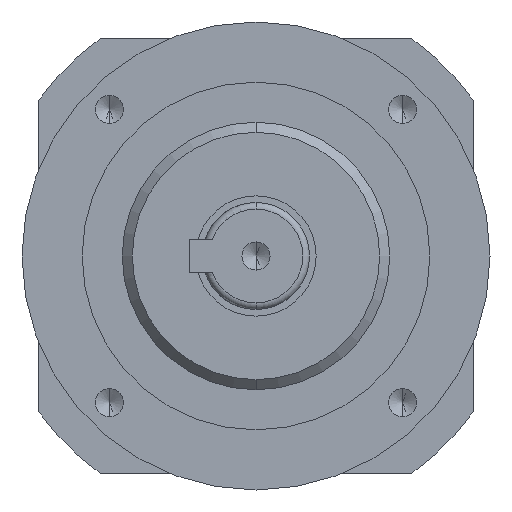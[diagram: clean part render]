
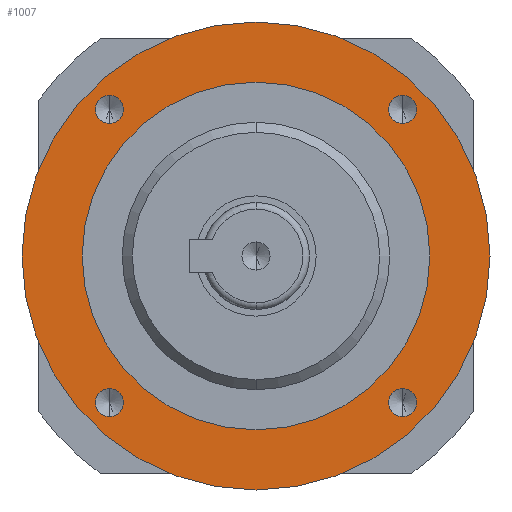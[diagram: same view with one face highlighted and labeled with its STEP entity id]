
A CAD part, left-side view. The second image highlights one B-rep face of the part: STEP entity #1007.
In plain terms, the highlighted planar face has unit normal (-1, 0, 0).
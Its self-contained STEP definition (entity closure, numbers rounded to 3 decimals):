
#20 = CIRCLE ( 'NONE', #2623, 35. ) ;
#24 = ORIENTED_EDGE ( 'NONE', *, *, #965, .F. ) ;
#28 = AXIS2_PLACEMENT_3D ( 'NONE', #1465, #796, #357 ) ;
#67 = DIRECTION ( 'NONE',  ( 0., 0., 1. ) ) ;
#84 = EDGE_LOOP ( 'NONE', ( #975, #856 ) ) ;
#86 = CIRCLE ( 'NONE', #2035, 2.1 ) ;
#93 = EDGE_CURVE ( 'NONE', #1799, #336, #2617, .T. ) ;
#112 = EDGE_CURVE ( 'NONE', #573, #1245, #20, .T. ) ;
#124 = DIRECTION ( 'NONE',  ( 0., 0., 1. ) ) ;
#161 = DIRECTION ( 'NONE',  ( -1., 0., 0. ) ) ;
#263 = EDGE_LOOP ( 'NONE', ( #613, #271 ) ) ;
#265 = DIRECTION ( 'NONE',  ( 1., 0., 0. ) ) ;
#271 = ORIENTED_EDGE ( 'NONE', *, *, #1080, .F. ) ;
#281 = EDGE_CURVE ( 'NONE', #2171, #2276, #1968, .T. ) ;
#312 = CARTESIAN_POINT ( 'NONE',  ( 36., 0., 0. ) ) ;
#336 = VERTEX_POINT ( 'NONE', #1221 ) ;
#337 = EDGE_LOOP ( 'NONE', ( #1322, #2040 ) ) ;
#357 = DIRECTION ( 'NONE',  ( 0., 0., 1. ) ) ;
#382 = CARTESIAN_POINT ( 'NONE',  ( 36., -21.92, 19.82 ) ) ;
#387 = DIRECTION ( 'NONE',  ( 0., 0., 1. ) ) ;
#398 = CIRCLE ( 'NONE', #1229, 2.1 ) ;
#401 = CARTESIAN_POINT ( 'NONE',  ( 36., 21.92, -21.92 ) ) ;
#449 = VERTEX_POINT ( 'NONE', #659 ) ;
#464 = CARTESIAN_POINT ( 'NONE',  ( 36., 0., -26. ) ) ;
#507 = DIRECTION ( 'NONE',  ( 0., 0., 1. ) ) ;
#522 = AXIS2_PLACEMENT_3D ( 'NONE', #2291, #2113, #1232 ) ;
#561 = EDGE_CURVE ( 'NONE', #449, #959, #86, .T. ) ;
#573 = VERTEX_POINT ( 'NONE', #2455 ) ;
#598 = CIRCLE ( 'NONE', #522, 35. ) ;
#609 = DIRECTION ( 'NONE',  ( 0., 0., 1. ) ) ;
#613 = ORIENTED_EDGE ( 'NONE', *, *, #670, .F. ) ;
#622 = ORIENTED_EDGE ( 'NONE', *, *, #561, .F. ) ;
#653 = ORIENTED_EDGE ( 'NONE', *, *, #2118, .T. ) ;
#659 = CARTESIAN_POINT ( 'NONE',  ( 36., 21.92, -19.82 ) ) ;
#670 = EDGE_CURVE ( 'NONE', #1088, #1830, #1749, .T. ) ;
#712 = AXIS2_PLACEMENT_3D ( 'NONE', #1353, #732, #67 ) ;
#732 = DIRECTION ( 'NONE',  ( -1., 0., 0. ) ) ;
#776 = EDGE_CURVE ( 'NONE', #2276, #2171, #2678, .T. ) ;
#796 = DIRECTION ( 'NONE',  ( -1., 0., 0. ) ) ;
#798 = AXIS2_PLACEMENT_3D ( 'NONE', #1328, #1546, #2417 ) ;
#838 = DIRECTION ( 'NONE',  ( 0., 0., 1. ) ) ;
#856 = ORIENTED_EDGE ( 'NONE', *, *, #2114, .F. ) ;
#927 = DIRECTION ( 'NONE',  ( -1., 0., 0. ) ) ;
#929 = FACE_OUTER_BOUND ( 'NONE', #2515, .T. ) ;
#946 = ORIENTED_EDGE ( 'NONE', *, *, #93, .F. ) ;
#959 = VERTEX_POINT ( 'NONE', #2663 ) ;
#965 = EDGE_CURVE ( 'NONE', #336, #1799, #2200, .T. ) ;
#975 = ORIENTED_EDGE ( 'NONE', *, *, #1869, .F. ) ;
#980 = AXIS2_PLACEMENT_3D ( 'NONE', #401, #2112, #838 ) ;
#1007 = ADVANCED_FACE ( 'NONE', ( #1306, #2574, #1169, #2296, #1407, #929 ), #2431, .F. ) ;
#1074 = CIRCLE ( 'NONE', #1601, 26. ) ;
#1080 = EDGE_CURVE ( 'NONE', #1830, #1088, #1074, .T. ) ;
#1088 = VERTEX_POINT ( 'NONE', #1848 ) ;
#1095 = VERTEX_POINT ( 'NONE', #2490 ) ;
#1142 = CARTESIAN_POINT ( 'NONE',  ( 36., 21.92, 21.92 ) ) ;
#1146 = CARTESIAN_POINT ( 'NONE',  ( 36., -21.92, -21.92 ) ) ;
#1169 = FACE_BOUND ( 'NONE', #2749, .T. ) ;
#1175 = CARTESIAN_POINT ( 'NONE',  ( 36., 0., 0. ) ) ;
#1221 = CARTESIAN_POINT ( 'NONE',  ( 36., 21.92, 24.02 ) ) ;
#1229 = AXIS2_PLACEMENT_3D ( 'NONE', #1146, #927, #2429 ) ;
#1232 = DIRECTION ( 'NONE',  ( 0., 0., 1. ) ) ;
#1235 = CARTESIAN_POINT ( 'NONE',  ( 36., -21.92, -19.82 ) ) ;
#1245 = VERTEX_POINT ( 'NONE', #2071 ) ;
#1252 = CARTESIAN_POINT ( 'NONE',  ( 36., -21.92, 24.02 ) ) ;
#1306 = FACE_BOUND ( 'NONE', #337, .T. ) ;
#1322 = ORIENTED_EDGE ( 'NONE', *, *, #776, .F. ) ;
#1328 = CARTESIAN_POINT ( 'NONE',  ( 36., 21.92, 21.92 ) ) ;
#1353 = CARTESIAN_POINT ( 'NONE',  ( 36., 0., 0. ) ) ;
#1398 = VERTEX_POINT ( 'NONE', #1235 ) ;
#1407 = FACE_BOUND ( 'NONE', #263, .T. ) ;
#1462 = CARTESIAN_POINT ( 'NONE',  ( 36., -21.92, 21.92 ) ) ;
#1465 = CARTESIAN_POINT ( 'NONE',  ( 36., -21.92, -21.92 ) ) ;
#1546 = DIRECTION ( 'NONE',  ( -1., 0., 0. ) ) ;
#1559 = DIRECTION ( 'NONE',  ( -1., 0., 0. ) ) ;
#1569 = CIRCLE ( 'NONE', #28, 2.1 ) ;
#1601 = AXIS2_PLACEMENT_3D ( 'NONE', #312, #2244, #1837 ) ;
#1604 = DIRECTION ( 'NONE',  ( -1., 0., 0. ) ) ;
#1648 = CARTESIAN_POINT ( 'NONE',  ( 36., -21.92, 21.92 ) ) ;
#1749 = CIRCLE ( 'NONE', #712, 26. ) ;
#1750 = DIRECTION ( 'NONE',  ( 0., 0., -1. ) ) ;
#1799 = VERTEX_POINT ( 'NONE', #2394 ) ;
#1830 = VERTEX_POINT ( 'NONE', #464 ) ;
#1837 = DIRECTION ( 'NONE',  ( 0., 0., 1. ) ) ;
#1848 = CARTESIAN_POINT ( 'NONE',  ( 36., 0., 26. ) ) ;
#1869 = EDGE_CURVE ( 'NONE', #1398, #1095, #398, .T. ) ;
#1968 = CIRCLE ( 'NONE', #1981, 2.1 ) ;
#1981 = AXIS2_PLACEMENT_3D ( 'NONE', #1648, #2321, #609 ) ;
#2035 = AXIS2_PLACEMENT_3D ( 'NONE', #2434, #1559, #507 ) ;
#2040 = ORIENTED_EDGE ( 'NONE', *, *, #281, .F. ) ;
#2071 = CARTESIAN_POINT ( 'NONE',  ( 36., 0., 35. ) ) ;
#2083 = DIRECTION ( 'NONE',  ( -1., 0., 0. ) ) ;
#2112 = DIRECTION ( 'NONE',  ( -1., 0., 0. ) ) ;
#2113 = DIRECTION ( 'NONE',  ( -1., 0., 0. ) ) ;
#2114 = EDGE_CURVE ( 'NONE', #1095, #1398, #1569, .T. ) ;
#2118 = EDGE_CURVE ( 'NONE', #1245, #573, #598, .T. ) ;
#2161 = AXIS2_PLACEMENT_3D ( 'NONE', #1462, #161, #387 ) ;
#2171 = VERTEX_POINT ( 'NONE', #382 ) ;
#2200 = CIRCLE ( 'NONE', #798, 2.1 ) ;
#2233 = CARTESIAN_POINT ( 'NONE',  ( 36., 26., 0. ) ) ;
#2244 = DIRECTION ( 'NONE',  ( -1., 0., 0. ) ) ;
#2269 = AXIS2_PLACEMENT_3D ( 'NONE', #1142, #1604, #2283 ) ;
#2276 = VERTEX_POINT ( 'NONE', #1252 ) ;
#2283 = DIRECTION ( 'NONE',  ( 0., 0., 1. ) ) ;
#2291 = CARTESIAN_POINT ( 'NONE',  ( 36., 0., 0. ) ) ;
#2296 = FACE_BOUND ( 'NONE', #2441, .T. ) ;
#2302 = ORIENTED_EDGE ( 'NONE', *, *, #2773, .F. ) ;
#2321 = DIRECTION ( 'NONE',  ( -1., 0., 0. ) ) ;
#2394 = CARTESIAN_POINT ( 'NONE',  ( 36., 21.92, 19.82 ) ) ;
#2417 = DIRECTION ( 'NONE',  ( 0., 0., 1. ) ) ;
#2429 = DIRECTION ( 'NONE',  ( 0., 0., 1. ) ) ;
#2431 = PLANE ( 'NONE',  #2802 ) ;
#2434 = CARTESIAN_POINT ( 'NONE',  ( 36., 21.92, -21.92 ) ) ;
#2441 = EDGE_LOOP ( 'NONE', ( #24, #946 ) ) ;
#2455 = CARTESIAN_POINT ( 'NONE',  ( 36., 0., -35. ) ) ;
#2490 = CARTESIAN_POINT ( 'NONE',  ( 36., -21.92, -24.02 ) ) ;
#2515 = EDGE_LOOP ( 'NONE', ( #653, #2698 ) ) ;
#2574 = FACE_BOUND ( 'NONE', #84, .T. ) ;
#2617 = CIRCLE ( 'NONE', #2269, 2.1 ) ;
#2623 = AXIS2_PLACEMENT_3D ( 'NONE', #1175, #2083, #124 ) ;
#2663 = CARTESIAN_POINT ( 'NONE',  ( 36., 21.92, -24.02 ) ) ;
#2678 = CIRCLE ( 'NONE', #2161, 2.1 ) ;
#2698 = ORIENTED_EDGE ( 'NONE', *, *, #112, .T. ) ;
#2729 = CIRCLE ( 'NONE', #980, 2.1 ) ;
#2749 = EDGE_LOOP ( 'NONE', ( #622, #2302 ) ) ;
#2773 = EDGE_CURVE ( 'NONE', #959, #449, #2729, .T. ) ;
#2802 = AXIS2_PLACEMENT_3D ( 'NONE', #2233, #265, #1750 ) ;
